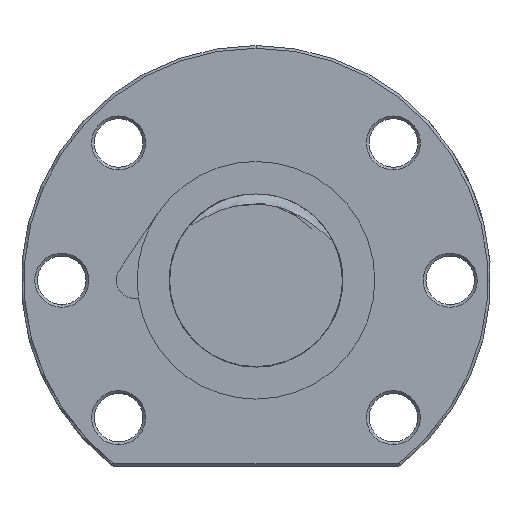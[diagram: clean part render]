
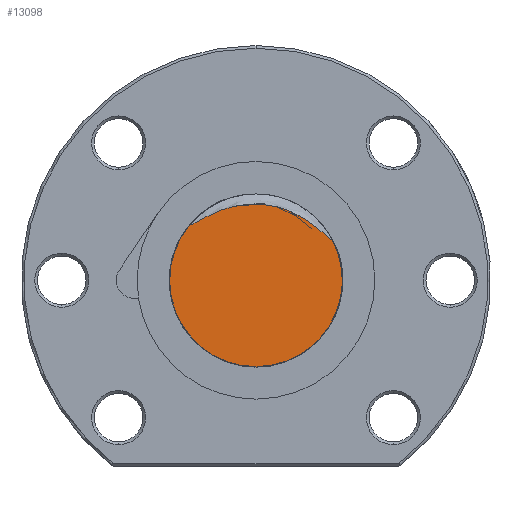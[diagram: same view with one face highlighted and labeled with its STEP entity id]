
A CAD part, left-side view. The second image highlights one B-rep face of the part: STEP entity #13098.
In plain terms, the highlighted planar face has unit normal (-1, 0, 0).
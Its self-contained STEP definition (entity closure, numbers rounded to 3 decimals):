
#9116 = EDGE_CURVE ( 'NONE', #9321, #12996, #14652, .T. ) ;
#9321 = VERTEX_POINT ( 'NONE', #14647 ) ;
#12996 = VERTEX_POINT ( 'NONE', #14863 ) ;
#13098 = ADVANCED_FACE ( 'NONE', ( #15273 ), #15272, .F. ) ;
#13099 = EDGE_LOOP ( 'NONE', ( #13100, #13101, #13103 ) ) ;
#13100 = ORIENTED_EDGE ( 'NONE', *, *, #13370, .F. ) ;
#13101 = ORIENTED_EDGE ( 'NONE', *, *, #13102, .T. ) ;
#13102 = EDGE_CURVE ( 'NONE', #13371, #12996, #15563, .T. ) ;
#13103 = ORIENTED_EDGE ( 'NONE', *, *, #9116, .F. ) ;
#13370 = EDGE_CURVE ( 'NONE', #13371, #9321, #21538, .T. ) ;
#13371 = VERTEX_POINT ( 'NONE', #21537 ) ;
#14647 = CARTESIAN_POINT ( 'NONE',  ( -191., 0., -16. ) ) ;
#14648 = DIRECTION ( 'NONE',  ( 0., 1., 0. ) ) ;
#14649 = DIRECTION ( 'NONE',  ( 1., 0., 0. ) ) ;
#14650 = CARTESIAN_POINT ( 'NONE',  ( -191., 0., 0. ) ) ;
#14651 = AXIS2_PLACEMENT_3D ( 'NONE', #14650, #14649, #14648 ) ;
#14652 = CIRCLE ( 'NONE', #14651, 16. ) ;
#14863 = CARTESIAN_POINT ( 'NONE',  ( -191., 12.341, 10.184 ) ) ;
#15268 = DIRECTION ( 'NONE',  ( 0., 0., -1. ) ) ;
#15269 = DIRECTION ( 'NONE',  ( 1., 0., 0. ) ) ;
#15270 = CARTESIAN_POINT ( 'NONE',  ( -191., 0., 0. ) ) ;
#15271 = AXIS2_PLACEMENT_3D ( 'NONE', #15270, #15269, #15268 ) ;
#15272 = PLANE ( 'NONE',  #15271 ) ;
#15273 = FACE_OUTER_BOUND ( 'NONE', #13099, .T. ) ;
#15563 = B_SPLINE_CURVE_WITH_KNOTS ( 'NONE', 3,
 ( #15650, #15649, #15648, #15647, #15646, #15645, #15576, #15575, #15574, #15573, #15572, #15571, #15570, #15569, #15568, #15567, #15566, #15565, #15629, #15628, #15627, #15626, #15625, #15624, #15623, #15622, #15621, #15620, #15619, #15618, #15617, #15616, #15615, #15614, #15613, #15612, #15611, #15610, #15609, #15608, #15607, #15606 ),
 .UNSPECIFIED., .F., .F.,
 ( 4, 2, 2, 2, 2, 2, 2, 2, 2, 2, 2, 2, 2, 2, 2, 2, 2, 2, 2, 2, 4 ),
 ( 0.012, 0.012, 0.013, 0.013, 0.015, 0.017, 0.019, 0.023, 0.023, 0.024, 0.026, 0.028, 0.029, 0.03, 0.033, 0.035, 0.037, 0.039, 0.04, 0.04, 0.041 ),
 .UNSPECIFIED. ) ;
#15565 = CARTESIAN_POINT ( 'NONE',  ( -191., -3.876, 13.614 ) ) ;
#15566 = CARTESIAN_POINT ( 'NONE',  ( -191., -4.465, 13.453 ) ) ;
#15567 = CARTESIAN_POINT ( 'NONE',  ( -191., -4.76, 13.364 ) ) ;
#15568 = CARTESIAN_POINT ( 'NONE',  ( -191., -6.211, 12.884 ) ) ;
#15569 = CARTESIAN_POINT ( 'NONE',  ( -191., -7.311, 12.386 ) ) ;
#15570 = CARTESIAN_POINT ( 'NONE',  ( -191., -8.88, 11.486 ) ) ;
#15571 = CARTESIAN_POINT ( 'NONE',  ( -191., -9.39, 11.16 ) ) ;
#15572 = CARTESIAN_POINT ( 'NONE',  ( -191., -10.384, 10.462 ) ) ;
#15573 = CARTESIAN_POINT ( 'NONE',  ( -191., -10.871, 10.09 ) ) ;
#15574 = CARTESIAN_POINT ( 'NONE',  ( -191., -11.818, 9.316 ) ) ;
#15575 = CARTESIAN_POINT ( 'NONE',  ( -191., -12.279, 8.914 ) ) ;
#15576 = CARTESIAN_POINT ( 'NONE',  ( -191., -12.971, 8.313 ) ) ;
#15606 = CARTESIAN_POINT ( 'NONE',  ( -191., 12.341, 10.184 ) ) ;
#15607 = CARTESIAN_POINT ( 'NONE',  ( -191., 12.193, 10.225 ) ) ;
#15608 = CARTESIAN_POINT ( 'NONE',  ( -191., 12.051, 10.282 ) ) ;
#15609 = CARTESIAN_POINT ( 'NONE',  ( -191., 11.771, 10.406 ) ) ;
#15610 = CARTESIAN_POINT ( 'NONE',  ( -191., 11.633, 10.473 ) ) ;
#15611 = CARTESIAN_POINT ( 'NONE',  ( -191., 11.224, 10.682 ) ) ;
#15612 = CARTESIAN_POINT ( 'NONE',  ( -191., 10.956, 10.83 ) ) ;
#15613 = CARTESIAN_POINT ( 'NONE',  ( -191., 10.152, 11.275 ) ) ;
#15614 = CARTESIAN_POINT ( 'NONE',  ( -191., 9.617, 11.573 ) ) ;
#15615 = CARTESIAN_POINT ( 'NONE',  ( -191., 8.528, 12.133 ) ) ;
#15616 = CARTESIAN_POINT ( 'NONE',  ( -191., 7.976, 12.396 ) ) ;
#15617 = CARTESIAN_POINT ( 'NONE',  ( -191., 6.847, 12.874 ) ) ;
#15618 = CARTESIAN_POINT ( 'NONE',  ( -191., 6.276, 13.089 ) ) ;
#15619 = CARTESIAN_POINT ( 'NONE',  ( -191., 4.541, 13.645 ) ) ;
#15620 = CARTESIAN_POINT ( 'NONE',  ( -191., 3.355, 13.901 ) ) ;
#15621 = CARTESIAN_POINT ( 'NONE',  ( -191., 1.834, 14.066 ) ) ;
#15622 = CARTESIAN_POINT ( 'NONE',  ( -191., 1.527, 14.09 ) ) ;
#15623 = CARTESIAN_POINT ( 'NONE',  ( -191., 0.918, 14.124 ) ) ;
#15624 = CARTESIAN_POINT ( 'NONE',  ( -191., 0.614, 14.133 ) ) ;
#15625 = CARTESIAN_POINT ( 'NONE',  ( -191., -0.295, 14.134 ) ) ;
#15626 = CARTESIAN_POINT ( 'NONE',  ( -191., -0.898, 14.103 ) ) ;
#15627 = CARTESIAN_POINT ( 'NONE',  ( -191., -2.096, 13.976 ) ) ;
#15628 = CARTESIAN_POINT ( 'NONE',  ( -191., -2.692, 13.88 ) ) ;
#15629 = CARTESIAN_POINT ( 'NONE',  ( -191., -3.581, 13.687 ) ) ;
#15645 = CARTESIAN_POINT ( 'NONE',  ( -191., -13.202, 8.113 ) ) ;
#15646 = CARTESIAN_POINT ( 'NONE',  ( -191., -13.558, 7.824 ) ) ;
#15647 = CARTESIAN_POINT ( 'NONE',  ( -191., -13.679, 7.73 ) ) ;
#15648 = CARTESIAN_POINT ( 'NONE',  ( -191., -13.926, 7.551 ) ) ;
#15649 = CARTESIAN_POINT ( 'NONE',  ( -191., -14.053, 7.467 ) ) ;
#15650 = CARTESIAN_POINT ( 'NONE',  ( -191., -14.188, 7.396 ) ) ;
#21533 = DIRECTION ( 'NONE',  ( 0., 1., 0. ) ) ;
#21534 = DIRECTION ( 'NONE',  ( 1., 0., 0. ) ) ;
#21535 = CARTESIAN_POINT ( 'NONE',  ( -191., 0., 0. ) ) ;
#21536 = AXIS2_PLACEMENT_3D ( 'NONE', #21535, #21534, #21533 ) ;
#21537 = CARTESIAN_POINT ( 'NONE',  ( -191., -14.188, 7.396 ) ) ;
#21538 = CIRCLE ( 'NONE', #21536, 16. ) ;
